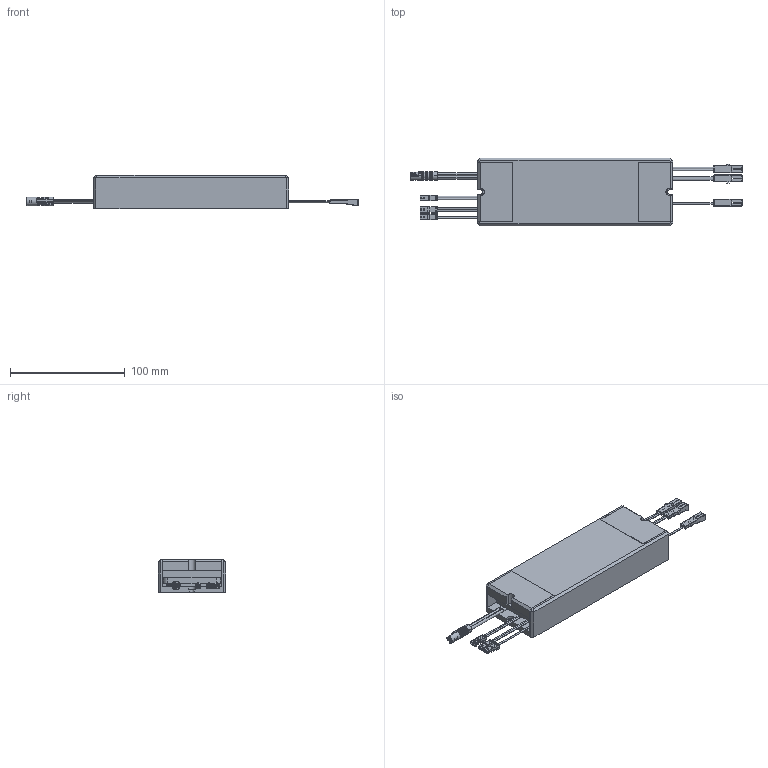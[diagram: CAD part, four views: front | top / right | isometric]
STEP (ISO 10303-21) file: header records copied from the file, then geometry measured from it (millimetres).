
FILE_DESCRIPTION (( 'STEP AP203' ), '1' );
FILE_NAME ('Repeater_MaxiColor_24.STEP', '2024-11-28T10:08:04', ( '' ), ( '' ), 'SwSTEP 2.0', 'SolidWorks 2023', '' );
FILE_SCHEMA (( 'CONFIG_CONTROL_DESIGN' ));
Length unit declared in the file: millimetre
Products named in the file (11): LED_Buchse_M3-F_AN_1 adrig; Prod._Aufkleber_SUNRICHER; LED_Buchse_M2-F_AN_l= 45mm; 3026351_mit_Aufdruck; Klappkappe_25.885.01 - weiß; MP2_Stecker_AN_L=50; Repeater_MaxiColor_24; 1916503_Pr1251_Mini_Stecker_LED_sw__L=55mm; LED_Stecker_M2-M_AN_L=50mm; LED_STECKER_M3_mit S-bogen; LED_Buchse_M1-F_AN_l= 45mm
Assembly tree (11 placements, depth 2):
  Repeater_MaxiColor_24
    3026351_mit_Aufdruck
    MP2_Stecker_AN_L=50
    Prod._Aufkleber_SUNRICHER
    Klappkappe_25.885.01 - weiß  x2
    LED_Buchse_M1-F_AN_l= 45mm
    LED_Buchse_M2-F_AN_l= 45mm
    LED_Buchse_M3-F_AN_1 adrig
    LED_STECKER_M3_mit S-bogen
    1916503_Pr1251_Mini_Stecker_LED_sw__L=55mm
    LED_Stecker_M2-M_AN_L=50mm
Bounding box: 289.5 x 59 x 29.06 mm (x, y, z)
Volume: 233410.2 mm3; surface area: 61237.8 mm2
Topology: 23 solids, 23 shells, 1680 faces, 4115 edges, 2371 vertices
Faces by surface type: plane 667, cylinder 658, torus 129, sphere 126, bspline 80, cone 20
Entity records: 50497 total; most frequent: CARTESIAN_POINT 11432, DIRECTION 8140, ORIENTED_EDGE 7764, EDGE_CURVE 3882, AXIS2_PLACEMENT_3D 2922, VERTEX_POINT 2319, LINE 2296, VECTOR 2296
